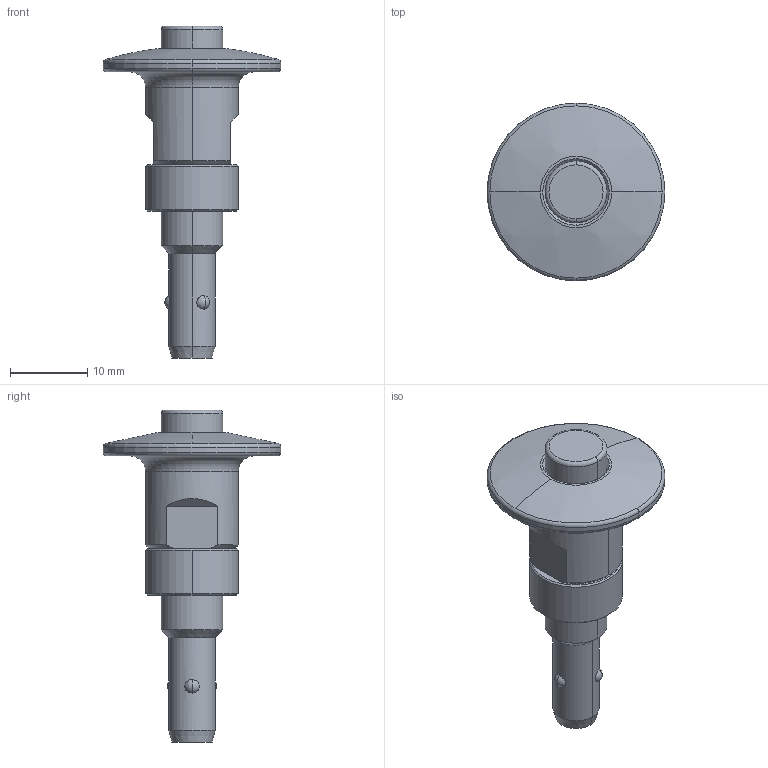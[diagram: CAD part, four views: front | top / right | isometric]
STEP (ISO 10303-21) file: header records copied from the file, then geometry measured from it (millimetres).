
FILE_DESCRIPTION (( 'STEP AP203' ), '1' );
FILE_NAME ('qcbu0608-10-sus.STEP', '2021-10-21T08:18:39', ( '' ), ( '' ), 'SwSTEP 2.0', 'SolidWorks 2020', '' );
FILE_SCHEMA (( 'CONFIG_CONTROL_DESIGN' ));
Length unit declared in the file: millimetre
Products named in the file (1): qcbu0608-10-sus
Bounding box: 23 x 23 x 42.95 mm (x, y, z)
Volume: 3744.3 mm3; surface area: 2170.5 mm2
Topology: 1 solids, 2 shells, 71 faces, 152 edges, 94 vertices
Faces by surface type: cone 21, cylinder 20, plane 14, sphere 8, torus 8
Entity records: 2110 total; most frequent: CARTESIAN_POINT 432, DIRECTION 377, ORIENTED_EDGE 304, AXIS2_PLACEMENT_3D 165, EDGE_CURVE 152, VERTEX_POINT 94, CIRCLE 93, EDGE_LOOP 82
